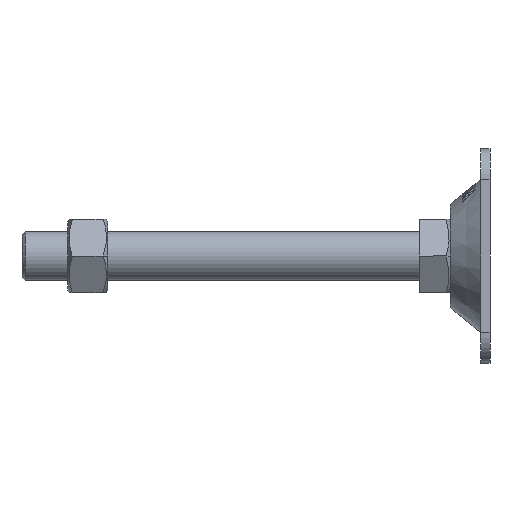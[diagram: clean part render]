
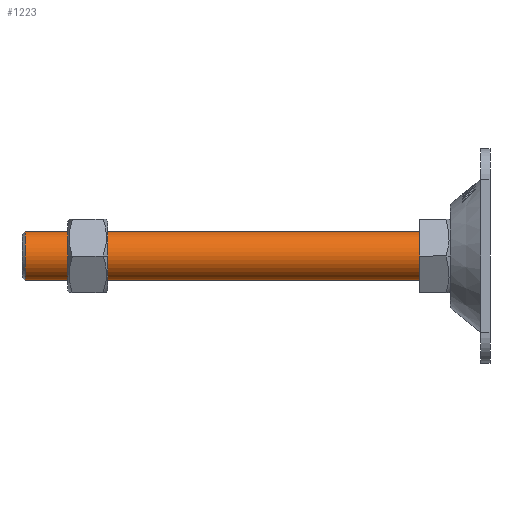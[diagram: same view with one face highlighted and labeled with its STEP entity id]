
A CAD part, left-side view. The second image highlights one B-rep face of the part: STEP entity #1223.
In plain terms, the highlighted cylindrical face has radius 8 mm (diameter 16 mm), a partial arc.
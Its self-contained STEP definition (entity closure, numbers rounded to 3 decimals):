
#103 = CARTESIAN_POINT ( 'NONE',  ( 0., 139., -8. ) ) ;
#177 = EDGE_CURVE ( 'NONE', #5488, #3669, #2108, .T. ) ;
#249 = DIRECTION ( 'NONE',  ( 0., 0., 1. ) ) ;
#301 = ORIENTED_EDGE ( 'NONE', *, *, #177, .T. ) ;
#393 = VECTOR ( 'NONE', #3310, 1000. ) ;
#770 = CARTESIAN_POINT ( 'NONE',  ( 0., 10., 0. ) ) ;
#851 = VERTEX_POINT ( 'NONE', #2398 ) ;
#1131 = LINE ( 'NONE', #2143, #3250 ) ;
#1223 = ADVANCED_FACE ( 'NONE', ( #3029 ), #1740, .T. ) ;
#1322 = EDGE_LOOP ( 'NONE', ( #1847, #301, #4141, #1867 ) ) ;
#1367 = CARTESIAN_POINT ( 'NONE',  ( 0., 8., 8. ) ) ;
#1444 = AXIS2_PLACEMENT_3D ( 'NONE', #2115, #2595, #5005 ) ;
#1586 = EDGE_CURVE ( 'NONE', #1720, #851, #4808, .T. ) ;
#1720 = VERTEX_POINT ( 'NONE', #1911 ) ;
#1740 = CYLINDRICAL_SURFACE ( 'NONE', #1444, 8. ) ;
#1847 = ORIENTED_EDGE ( 'NONE', *, *, #5013, .F. ) ;
#1867 = ORIENTED_EDGE ( 'NONE', *, *, #1586, .T. ) ;
#1911 = CARTESIAN_POINT ( 'NONE',  ( 0., 10., -8. ) ) ;
#2108 = CIRCLE ( 'NONE', #2684, 8. ) ;
#2113 = CARTESIAN_POINT ( 'NONE',  ( 0., 139., 8. ) ) ;
#2115 = CARTESIAN_POINT ( 'NONE',  ( 0., 8., 0. ) ) ;
#2143 = CARTESIAN_POINT ( 'NONE',  ( 0., 8., -8. ) ) ;
#2398 = CARTESIAN_POINT ( 'NONE',  ( 0., 10., 8. ) ) ;
#2595 = DIRECTION ( 'NONE',  ( 0., -1., 0. ) ) ;
#2684 = AXIS2_PLACEMENT_3D ( 'NONE', #5794, #4407, #3975 ) ;
#3029 = FACE_OUTER_BOUND ( 'NONE', #1322, .T. ) ;
#3119 = EDGE_CURVE ( 'NONE', #3669, #1720, #1131, .T. ) ;
#3250 = VECTOR ( 'NONE', #3623, 1000. ) ;
#3310 = DIRECTION ( 'NONE',  ( 0., -1., 0. ) ) ;
#3430 = AXIS2_PLACEMENT_3D ( 'NONE', #770, #5946, #249 ) ;
#3623 = DIRECTION ( 'NONE',  ( 0., -1., 0. ) ) ;
#3669 = VERTEX_POINT ( 'NONE', #103 ) ;
#3975 = DIRECTION ( 'NONE',  ( 0., 0., -1. ) ) ;
#4141 = ORIENTED_EDGE ( 'NONE', *, *, #3119, .T. ) ;
#4407 = DIRECTION ( 'NONE',  ( 0., -1., 0. ) ) ;
#4808 = CIRCLE ( 'NONE', #3430, 8. ) ;
#5005 = DIRECTION ( 'NONE',  ( 0., 0., -1. ) ) ;
#5013 = EDGE_CURVE ( 'NONE', #5488, #851, #5653, .T. ) ;
#5488 = VERTEX_POINT ( 'NONE', #2113 ) ;
#5653 = LINE ( 'NONE', #1367, #393 ) ;
#5794 = CARTESIAN_POINT ( 'NONE',  ( 0., 139., 0. ) ) ;
#5946 = DIRECTION ( 'NONE',  ( 0., 1., 0. ) ) ;
